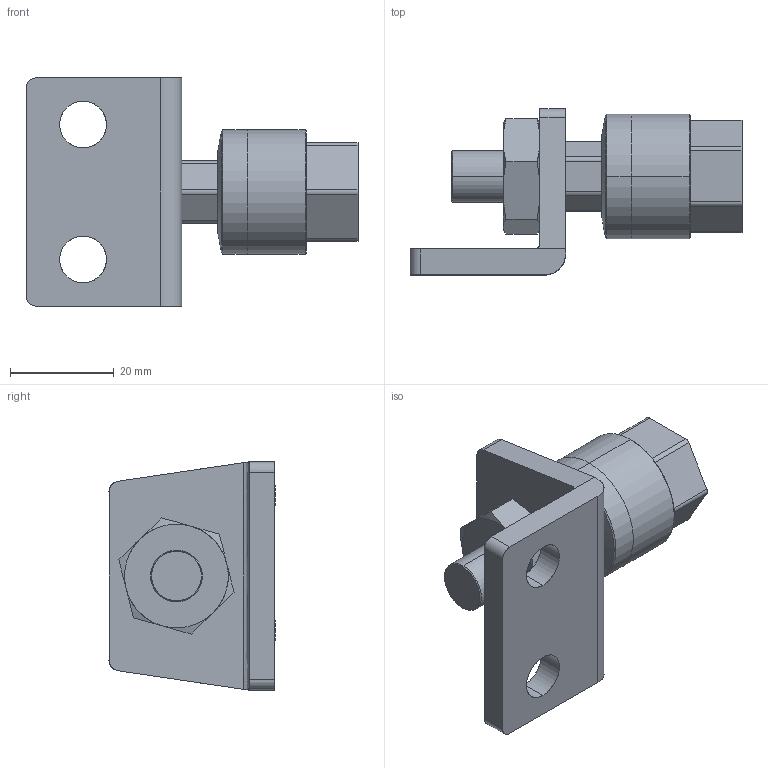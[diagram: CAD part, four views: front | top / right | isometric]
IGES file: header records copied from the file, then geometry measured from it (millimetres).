
Start section: SolidWorks IGES file using analytic representation for surfaces
Global section: file name: C:\Users\Toshiba\Desktop\FCM10-1.5-L.IGS; native system: SolidWorks 2014; preprocessor: SolidWorks 2014; author: Toshiba; date: 160414.095344; units: millimetre
Bounding box: 64 x 32 x 44 mm (x, y, z)
Surface area: 11055.2 mm2 (no closed solid volume)
Topology: 0 solids, 0 shells, 91 faces, 1186 edges, 1184 vertices
Faces by surface type: bspline 47, revolution 44
